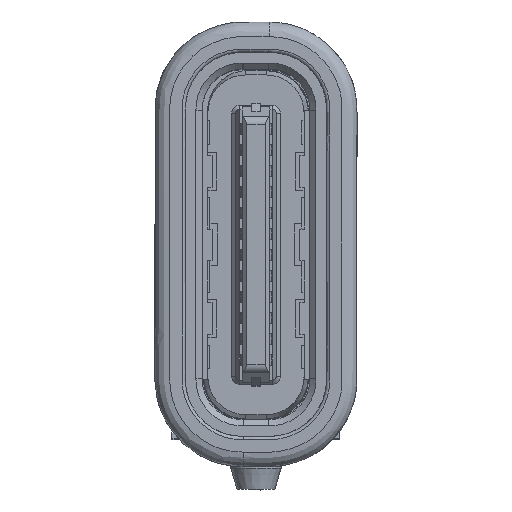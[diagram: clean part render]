
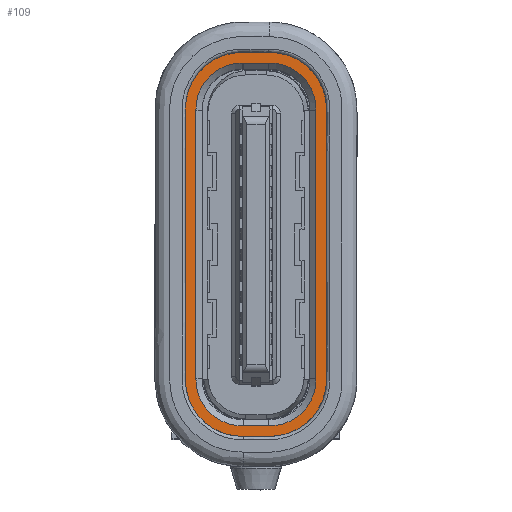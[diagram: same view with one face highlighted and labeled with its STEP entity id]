
A CAD part, top view. The second image highlights one B-rep face of the part: STEP entity #109.
In plain terms, the highlighted planar face has unit normal (0, 0, 1).
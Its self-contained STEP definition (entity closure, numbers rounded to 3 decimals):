
#109 = ADVANCED_FACE ( 'NONE', ( #16546, #30427 ), #27642, .T. ) ;
#188 = DIRECTION ( 'NONE',  ( 0., 1., 0. ) ) ;
#949 = CARTESIAN_POINT ( 'NONE',  ( 4.752, 5.5, 13.904 ) ) ;
#1469 = ORIENTED_EDGE ( 'NONE', *, *, #21464, .T. ) ;
#1788 = DIRECTION ( 'NONE',  ( -1., 0., 0. ) ) ;
#1891 = ORIENTED_EDGE ( 'NONE', *, *, #17882, .T. ) ;
#2188 = CARTESIAN_POINT ( 'NONE',  ( 6.102, 13.295, 13.904 ) ) ;
#2306 = DIRECTION ( 'NONE',  ( 0., 0., 1. ) ) ;
#2328 = CARTESIAN_POINT ( 'NONE',  ( 7.862, 11.92, 13.904 ) ) ;
#2434 = ORIENTED_EDGE ( 'NONE', *, *, #25122, .T. ) ;
#2854 = CARTESIAN_POINT ( 'NONE',  ( 6.762, 13.295, 13.904 ) ) ;
#3084 = LINE ( 'NONE', #14375, #26864 ) ;
#3286 = DIRECTION ( 'NONE',  ( -1., 0., 0. ) ) ;
#3413 = VERTEX_POINT ( 'NONE', #10946 ) ;
#3452 = VERTEX_POINT ( 'NONE', #17404 ) ;
#4565 = CARTESIAN_POINT ( 'NONE',  ( 6.102, 5.5, 13.904 ) ) ;
#4568 = CIRCLE ( 'NONE', #17564, 1.35 ) ;
#4588 = VECTOR ( 'NONE', #188, 1000. ) ;
#5097 = DIRECTION ( 'NONE',  ( -1., 0., 0. ) ) ;
#5538 = CARTESIAN_POINT ( 'NONE',  ( 6.102, 11.94, 13.904 ) ) ;
#5567 = DIRECTION ( 'NONE',  ( 0., 0., -1. ) ) ;
#5723 = CARTESIAN_POINT ( 'NONE',  ( 8.112, 5.5, 13.904 ) ) ;
#5742 = VERTEX_POINT ( 'NONE', #949 ) ;
#6085 = DIRECTION ( 'NONE',  ( -1., 0., 0. ) ) ;
#6086 = VERTEX_POINT ( 'NONE', #5723 ) ;
#6287 = LINE ( 'NONE', #14974, #31912 ) ;
#6638 = VERTEX_POINT ( 'NONE', #7662 ) ;
#6950 = VECTOR ( 'NONE', #24852, 1000. ) ;
#7662 = CARTESIAN_POINT ( 'NONE',  ( 6.102, 13.04, 13.904 ) ) ;
#7708 = CARTESIAN_POINT ( 'NONE',  ( 6.762, 5.5, 13.904 ) ) ;
#7912 = EDGE_CURVE ( 'NONE', #9918, #5742, #34502, .T. ) ;
#8038 = AXIS2_PLACEMENT_3D ( 'NONE', #35114, #9791, #26424 ) ;
#8165 = ORIENTED_EDGE ( 'NONE', *, *, #18456, .F. ) ;
#8341 = DIRECTION ( 'NONE',  ( -1., 0., 0. ) ) ;
#8845 = CARTESIAN_POINT ( 'NONE',  ( 6.832, 4.15, 13.904 ) ) ;
#8849 = VECTOR ( 'NONE', #9840, 1000. ) ;
#8983 = CARTESIAN_POINT ( 'NONE',  ( 6.762, 5.5, 13.904 ) ) ;
#9137 = ORIENTED_EDGE ( 'NONE', *, *, #11676, .F. ) ;
#9666 = EDGE_CURVE ( 'NONE', #24638, #32417, #23788, .T. ) ;
#9705 = VERTEX_POINT ( 'NONE', #2854 ) ;
#9777 = CARTESIAN_POINT ( 'NONE',  ( 5.002, 11.92, 13.904 ) ) ;
#9791 = DIRECTION ( 'NONE',  ( 0., 0., -1. ) ) ;
#9840 = DIRECTION ( 'NONE',  ( -1., 0., 0. ) ) ;
#9918 = VERTEX_POINT ( 'NONE', #34653 ) ;
#10256 = EDGE_CURVE ( 'NONE', #24552, #21576, #34615, .T. ) ;
#10937 = DIRECTION ( 'NONE',  ( 0., 0., -1. ) ) ;
#10946 = CARTESIAN_POINT ( 'NONE',  ( 4.752, 11.945, 13.904 ) ) ;
#11020 = CARTESIAN_POINT ( 'NONE',  ( 6.132, 4.401, 13.904 ) ) ;
#11337 = ORIENTED_EDGE ( 'NONE', *, *, #20434, .T. ) ;
#11676 = EDGE_CURVE ( 'NONE', #3413, #14213, #4568, .T. ) ;
#11854 = DIRECTION ( 'NONE',  ( 0., 0., -1. ) ) ;
#11949 = DIRECTION ( 'NONE',  ( 0., 0., -1. ) ) ;
#12208 = ORIENTED_EDGE ( 'NONE', *, *, #9666, .T. ) ;
#12614 = AXIS2_PLACEMENT_3D ( 'NONE', #5538, #16823, #6085 ) ;
#12618 = LINE ( 'NONE', #35165, #8849 ) ;
#12619 = ORIENTED_EDGE ( 'NONE', *, *, #34765, .T. ) ;
#12842 = CARTESIAN_POINT ( 'NONE',  ( 7.862, 5.52, 13.904 ) ) ;
#13074 = CIRCLE ( 'NONE', #19557, 1.35 ) ;
#13432 = DIRECTION ( 'NONE',  ( -1., 0., 0. ) ) ;
#13578 = DIRECTION ( 'NONE',  ( 0., 0., -1. ) ) ;
#14026 = LINE ( 'NONE', #8845, #26666 ) ;
#14213 = VERTEX_POINT ( 'NONE', #2188 ) ;
#14375 = CARTESIAN_POINT ( 'NONE',  ( 5.002, 11.92, 13.904 ) ) ;
#14820 = ORIENTED_EDGE ( 'NONE', *, *, #7912, .F. ) ;
#14974 = CARTESIAN_POINT ( 'NONE',  ( 7.862, 11.92, 13.904 ) ) ;
#15477 = DIRECTION ( 'NONE',  ( 0., 0., -1. ) ) ;
#15652 = DIRECTION ( 'NONE',  ( 1., 0., 0. ) ) ;
#15852 = DIRECTION ( 'NONE',  ( 0., 0., -1. ) ) ;
#16350 = DIRECTION ( 'NONE',  ( -1., 0., 0. ) ) ;
#16411 = VECTOR ( 'NONE', #15652, 1000. ) ;
#16546 = FACE_BOUND ( 'NONE', #26761, .T. ) ;
#16576 = CIRCLE ( 'NONE', #18360, 1.1 ) ;
#16705 = LINE ( 'NONE', #33355, #6950 ) ;
#16823 = DIRECTION ( 'NONE',  ( 0., 0., -1. ) ) ;
#16896 = CIRCLE ( 'NONE', #20430, 1.1 ) ;
#16974 = AXIS2_PLACEMENT_3D ( 'NONE', #27620, #13578, #30763 ) ;
#17404 = CARTESIAN_POINT ( 'NONE',  ( 6.132, 13.04, 13.904 ) ) ;
#17564 = AXIS2_PLACEMENT_3D ( 'NONE', #21847, #10937, #30894 ) ;
#17576 = ORIENTED_EDGE ( 'NONE', *, *, #20855, .F. ) ;
#17819 = EDGE_CURVE ( 'NONE', #27326, #6638, #29380, .T. ) ;
#17882 = EDGE_CURVE ( 'NONE', #6086, #26133, #16705, .T. ) ;
#18360 = AXIS2_PLACEMENT_3D ( 'NONE', #7708, #15477, #13432 ) ;
#18426 = CARTESIAN_POINT ( 'NONE',  ( 6.922, 13.04, 13.904 ) ) ;
#18456 = EDGE_CURVE ( 'NONE', #5742, #3413, #25525, .T. ) ;
#18960 = DIRECTION ( 'NONE',  ( 0., -1., 0. ) ) ;
#19275 = CARTESIAN_POINT ( 'NONE',  ( 6.762, 4.15, 13.904 ) ) ;
#19323 = EDGE_CURVE ( 'NONE', #6086, #24385, #22381, .T. ) ;
#19557 = AXIS2_PLACEMENT_3D ( 'NONE', #34213, #5567, #8341 ) ;
#20103 = DIRECTION ( 'NONE',  ( 0., -1., 0. ) ) ;
#20430 = AXIS2_PLACEMENT_3D ( 'NONE', #4565, #15852, #1788 ) ;
#20434 = EDGE_CURVE ( 'NONE', #9705, #14213, #12618, .T. ) ;
#20493 = VERTEX_POINT ( 'NONE', #35711 ) ;
#20855 = EDGE_CURVE ( 'NONE', #26561, #21576, #6287, .T. ) ;
#21464 = EDGE_CURVE ( 'NONE', #26561, #24638, #16576, .T. ) ;
#21576 = VERTEX_POINT ( 'NONE', #2328 ) ;
#21847 = CARTESIAN_POINT ( 'NONE',  ( 6.102, 11.945, 13.904 ) ) ;
#21958 = CARTESIAN_POINT ( 'NONE',  ( 6.732, 4.401, 13.904 ) ) ;
#22072 = EDGE_CURVE ( 'NONE', #9705, #26133, #13074, .T. ) ;
#22381 = CIRCLE ( 'NONE', #34770, 1.35 ) ;
#22474 = EDGE_CURVE ( 'NONE', #24385, #9918, #14026, .T. ) ;
#22732 = CARTESIAN_POINT ( 'NONE',  ( 8.112, 11.945, 13.904 ) ) ;
#22798 = EDGE_CURVE ( 'NONE', #32417, #20493, #16896, .T. ) ;
#23788 = LINE ( 'NONE', #32289, #28064 ) ;
#23863 = AXIS2_PLACEMENT_3D ( 'NONE', #24129, #11854, #16350 ) ;
#24071 = EDGE_LOOP ( 'NONE', ( #27792, #25366, #1891, #27921, #11337, #9137, #8165, #14820 ) ) ;
#24129 = CARTESIAN_POINT ( 'NONE',  ( 6.102, 5.5, 13.904 ) ) ;
#24385 = VERTEX_POINT ( 'NONE', #19275 ) ;
#24552 = VERTEX_POINT ( 'NONE', #32872 ) ;
#24638 = VERTEX_POINT ( 'NONE', #21958 ) ;
#24852 = DIRECTION ( 'NONE',  ( 0., 1., 0. ) ) ;
#24874 = CARTESIAN_POINT ( 'NONE',  ( 6.922, 5.28, 13.904 ) ) ;
#24978 = AXIS2_PLACEMENT_3D ( 'NONE', #24874, #2306, #18960 ) ;
#25122 = EDGE_CURVE ( 'NONE', #3452, #24552, #33019, .T. ) ;
#25366 = ORIENTED_EDGE ( 'NONE', *, *, #19323, .F. ) ;
#25525 = LINE ( 'NONE', #31808, #4588 ) ;
#26071 = DIRECTION ( 'NONE',  ( 0., 1., 0. ) ) ;
#26133 = VERTEX_POINT ( 'NONE', #22732 ) ;
#26187 = ORIENTED_EDGE ( 'NONE', *, *, #10256, .T. ) ;
#26424 = DIRECTION ( 'NONE',  ( -1., 0., 0. ) ) ;
#26561 = VERTEX_POINT ( 'NONE', #12842 ) ;
#26666 = VECTOR ( 'NONE', #3286, 1000. ) ;
#26761 = EDGE_LOOP ( 'NONE', ( #2434, #26187, #17576, #1469, #12208, #28002, #32955, #29259, #12619 ) ) ;
#26864 = VECTOR ( 'NONE', #20103, 1000. ) ;
#27326 = VERTEX_POINT ( 'NONE', #9777 ) ;
#27620 = CARTESIAN_POINT ( 'NONE',  ( 6.102, 11.94, 13.904 ) ) ;
#27642 = PLANE ( 'NONE',  #24978 ) ;
#27792 = ORIENTED_EDGE ( 'NONE', *, *, #22474, .F. ) ;
#27921 = ORIENTED_EDGE ( 'NONE', *, *, #22072, .F. ) ;
#28002 = ORIENTED_EDGE ( 'NONE', *, *, #22798, .T. ) ;
#28064 = VECTOR ( 'NONE', #5097, 1000. ) ;
#28947 = DIRECTION ( 'NONE',  ( 1., 0., 0. ) ) ;
#29133 = CIRCLE ( 'NONE', #12614, 1.1 ) ;
#29259 = ORIENTED_EDGE ( 'NONE', *, *, #17819, .T. ) ;
#29380 = CIRCLE ( 'NONE', #16974, 1.1 ) ;
#30427 = FACE_OUTER_BOUND ( 'NONE', #24071, .T. ) ;
#30763 = DIRECTION ( 'NONE',  ( -1., 0., 0. ) ) ;
#30894 = DIRECTION ( 'NONE',  ( 1., 0., 0. ) ) ;
#31808 = CARTESIAN_POINT ( 'NONE',  ( 4.752, 4.2, 13.904 ) ) ;
#31912 = VECTOR ( 'NONE', #26071, 1000. ) ;
#32289 = CARTESIAN_POINT ( 'NONE',  ( 6.922, 4.4, 13.904 ) ) ;
#32417 = VERTEX_POINT ( 'NONE', #11020 ) ;
#32872 = CARTESIAN_POINT ( 'NONE',  ( 6.732, 13.04, 13.904 ) ) ;
#32955 = ORIENTED_EDGE ( 'NONE', *, *, #36215, .F. ) ;
#33019 = LINE ( 'NONE', #18426, #16411 ) ;
#33355 = CARTESIAN_POINT ( 'NONE',  ( 8.112, 3.515, 13.904 ) ) ;
#34213 = CARTESIAN_POINT ( 'NONE',  ( 6.762, 11.945, 13.904 ) ) ;
#34502 = CIRCLE ( 'NONE', #23863, 1.35 ) ;
#34615 = CIRCLE ( 'NONE', #8038, 1.1 ) ;
#34653 = CARTESIAN_POINT ( 'NONE',  ( 6.102, 4.15, 13.904 ) ) ;
#34765 = EDGE_CURVE ( 'NONE', #6638, #3452, #29133, .T. ) ;
#34770 = AXIS2_PLACEMENT_3D ( 'NONE', #8983, #11949, #28947 ) ;
#35114 = CARTESIAN_POINT ( 'NONE',  ( 6.762, 11.94, 13.904 ) ) ;
#35165 = CARTESIAN_POINT ( 'NONE',  ( 6.866, 13.295, 13.904 ) ) ;
#35711 = CARTESIAN_POINT ( 'NONE',  ( 5.002, 5.52, 13.904 ) ) ;
#36215 = EDGE_CURVE ( 'NONE', #27326, #20493, #3084, .T. ) ;
